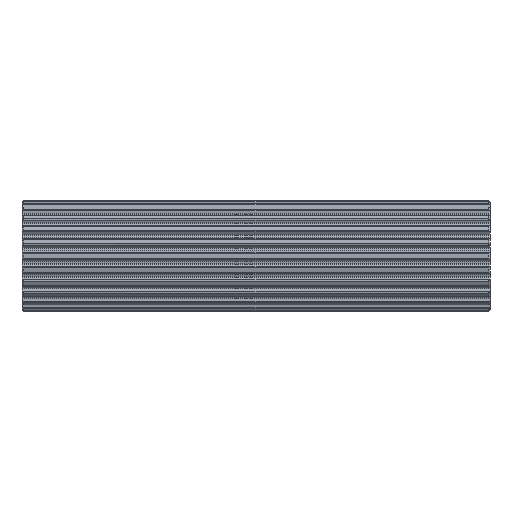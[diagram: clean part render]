
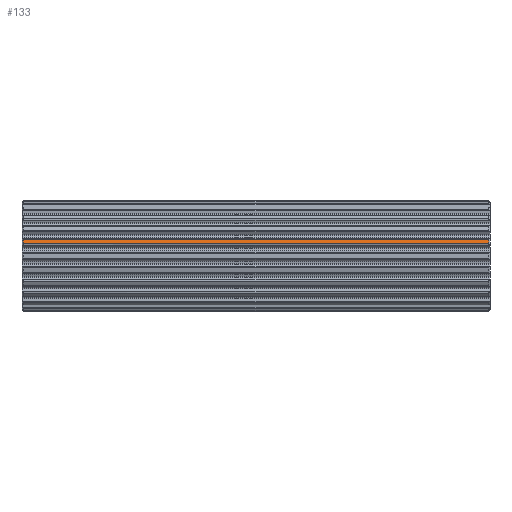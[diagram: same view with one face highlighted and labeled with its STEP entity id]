
A CAD part, top view. The second image highlights one B-rep face of the part: STEP entity #133.
In plain terms, the highlighted cylindrical face has radius 18.845 mm (diameter 37.69 mm), a partial arc.
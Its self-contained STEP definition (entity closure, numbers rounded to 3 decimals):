
#133=ADVANCED_FACE('',(#450),#451,.T.);
#450=FACE_OUTER_BOUND('',#968,.T.);
#451=CYLINDRICAL_SURFACE('',#969,18.845);
#968=EDGE_LOOP('',(#1834,#1835,#1836,#1837));
#969=AXIS2_PLACEMENT_3D('',#1838,#1839,#1840);
#1834=ORIENTED_EDGE('',*,*,#3775,.T.);
#1835=ORIENTED_EDGE('',*,*,#3894,.T.);
#1836=ORIENTED_EDGE('',*,*,#3895,.T.);
#1837=ORIENTED_EDGE('',*,*,#3896,.T.);
#1838=CARTESIAN_POINT('',(80.0,0.0,0.0));
#1839=DIRECTION('',(1.0,0.0,0.0));
#1840=DIRECTION('',(0.0,0.966,-0.259));
#3775=EDGE_CURVE('',#4629,#4638,#4640,.T.);
#3894=EDGE_CURVE('',#4638,#4858,#4859,.T.);
#3895=EDGE_CURVE('',#4858,#4860,#4861,.T.);
#3896=EDGE_CURVE('',#4860,#4629,#4862,.T.);
#4629=VERTEX_POINT('',#6389);
#4638=VERTEX_POINT('',#6425);
#4640=CIRCLE('',#6436,18.845);
#4858=VERTEX_POINT('',#7176);
#4859=LINE('',#7177,#7178);
#4860=VERTEX_POINT('',#7179);
#4861=CIRCLE('',#7180,18.845);
#4862=LINE('',#7181,#7182);
#6389=CARTESIAN_POINT('',(0.5,5.657,17.976));
#6425=CARTESIAN_POINT('',(0.5,4.088,18.396));
#6436=AXIS2_PLACEMENT_3D('',#9111,#9112,#9113);
#7176=CARTESIAN_POINT('',(159.5,4.088,18.396));
#7177=CARTESIAN_POINT('',(80.0,4.088,18.396));
#7178=VECTOR('',#9234,1.0);
#7179=CARTESIAN_POINT('',(159.5,5.657,17.976));
#7180=AXIS2_PLACEMENT_3D('',#9235,#9236,#9237);
#7181=CARTESIAN_POINT('',(80.0,5.657,17.976));
#7182=VECTOR('',#9238,1.0);
#9111=CARTESIAN_POINT('',(0.5,0.0,0.0));
#9112=DIRECTION('',(1.0,0.0,0.));
#9113=DIRECTION('',(0.,0.966,-0.259));
#9234=DIRECTION('',(1.0,0.0,0.0));
#9235=CARTESIAN_POINT('',(159.5,0.0,0.0));
#9236=DIRECTION('',(-1.0,0.0,0.0));
#9237=DIRECTION('',(0.0,0.966,-0.259));
#9238=DIRECTION('',(-1.0,0.0,0.0));
